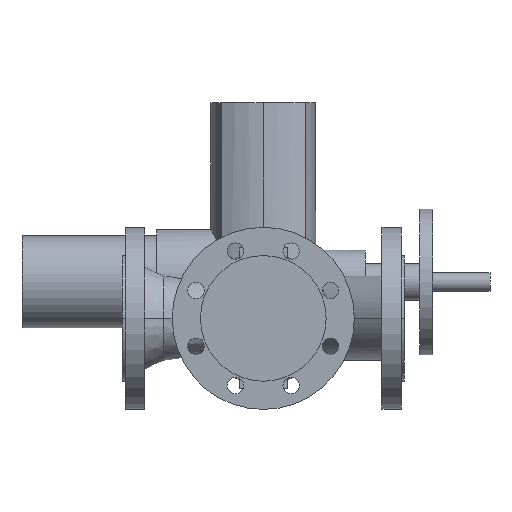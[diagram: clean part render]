
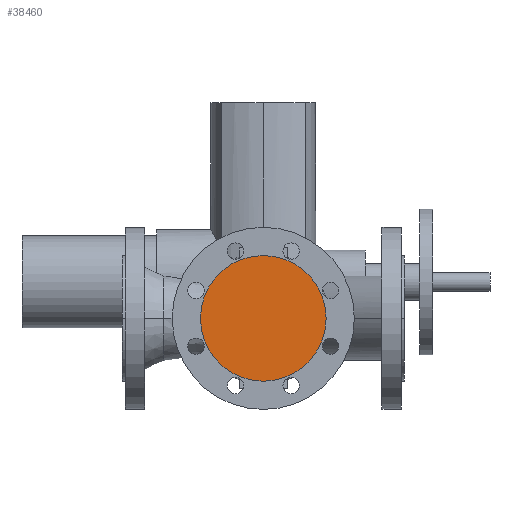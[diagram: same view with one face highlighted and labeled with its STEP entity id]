
A CAD part, front view. The second image highlights one B-rep face of the part: STEP entity #38460.
In plain terms, the highlighted planar face has unit normal (0, -1, 0).
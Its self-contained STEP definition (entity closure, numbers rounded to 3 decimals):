
#5810=CARTESIAN_POINT('',(224.,-130.,0.));
#5820=VERTEX_POINT('',#5810);
#5850=CARTESIAN_POINT('',(155.,-130.,0.));
#5860=DIRECTION('',(0.,1.,0.));
#5870=DIRECTION('',(1.,0.,0.));
#5880=AXIS2_PLACEMENT_3D('',#5850,#5860,#5870);
#5890=CIRCLE('',#5880,69.);
#5900=CARTESIAN_POINT('',(86.,-130.,0.));
#5910=VERTEX_POINT('',#5900);
#5920=EDGE_CURVE('',#5910,#5820,#5890,.T.);
#38360=CARTESIAN_POINT('',(189.5,-130.,0.));
#38370=DIRECTION('',(0.,-1.,0.));
#38380=DIRECTION('',(-1.,0.,0.));
#38390=AXIS2_PLACEMENT_3D('',#38360,#38370,#38380);
#38400=PLANE('',#38390);
#38410=ORIENTED_EDGE('',*,*,#5920,.F.);
#38420=EDGE_CURVE('',#5820,#5910,#5890,.T.);
#38430=ORIENTED_EDGE('',*,*,#38420,.F.);
#38440=EDGE_LOOP('',(#38430,#38410));
#38450=FACE_OUTER_BOUND('',#38440,.T.);
#38460=ADVANCED_FACE('',(#38450),#38400,.T.);
